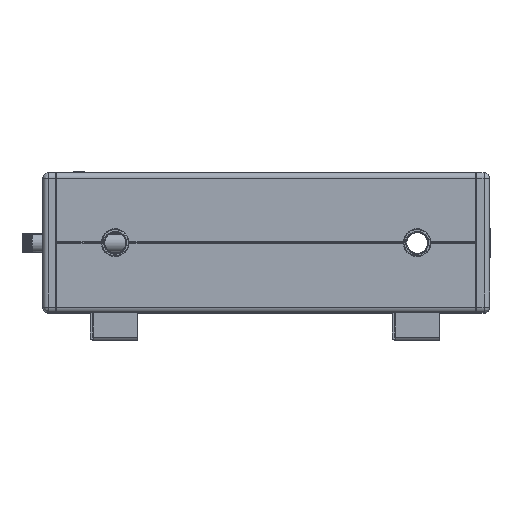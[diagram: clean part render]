
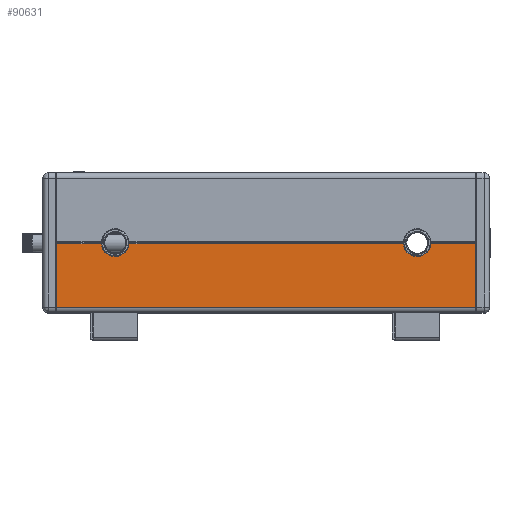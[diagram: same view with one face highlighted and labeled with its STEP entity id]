
A CAD part, top view. The second image highlights one B-rep face of the part: STEP entity #90631.
In plain terms, the highlighted planar face has unit normal (0, 0, 1) as drawn and (1, 0, 0) by its records, which use the part's own axes.
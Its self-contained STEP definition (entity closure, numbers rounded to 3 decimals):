
#300 = VERTEX_POINT ( 'NONE', #94101 ) ;
#4177 = ORIENTED_EDGE ( 'NONE', *, *, #7140, .F. ) ;
#4508 = VECTOR ( 'NONE', #41534, 1000. ) ;
#4536 = LINE ( 'NONE', #19874, #10816 ) ;
#4783 = CARTESIAN_POINT ( 'NONE',  ( 277.5, -247.08, -2. ) ) ;
#7140 = EDGE_CURVE ( 'NONE', #89873, #300, #86217, .T. ) ;
#9315 = DIRECTION ( 'NONE',  ( 0., 0., 1. ) ) ;
#10475 = DIRECTION ( 'NONE',  ( 0., 1., 0. ) ) ;
#10816 = VECTOR ( 'NONE', #33843, 1000. ) ;
#11093 = LINE ( 'NONE', #60399, #4508 ) ;
#11217 = DIRECTION ( 'NONE',  ( -1., 0., 0. ) ) ;
#13667 = DIRECTION ( 'NONE',  ( 0., 0., -1. ) ) ;
#13681 = VERTEX_POINT ( 'NONE', #4783 ) ;
#13902 = CARTESIAN_POINT ( 'NONE',  ( 277.5, 377.5, -116. ) ) ;
#13947 = EDGE_CURVE ( 'NONE', #15852, #97921, #57239, .T. ) ;
#14182 = DIRECTION ( 'NONE',  ( 1., 0., 0. ) ) ;
#15378 = ORIENTED_EDGE ( 'NONE', *, *, #102071, .F. ) ;
#15536 = DIRECTION ( 'NONE',  ( 0., 1., 0. ) ) ;
#15852 = VERTEX_POINT ( 'NONE', #42834 ) ;
#17986 = CARTESIAN_POINT ( 'NONE',  ( 277.5, -377.5, 15. ) ) ;
#18115 = VERTEX_POINT ( 'NONE', #13902 ) ;
#18960 = ORIENTED_EDGE ( 'NONE', *, *, #84149, .F. ) ;
#19164 = CARTESIAN_POINT ( 'NONE',  ( 277.5, 377.5, -2. ) ) ;
#19874 = CARTESIAN_POINT ( 'NONE',  ( 277.5, -377.5, -116. ) ) ;
#20317 = ORIENTED_EDGE ( 'NONE', *, *, #75705, .T. ) ;
#20341 = AXIS2_PLACEMENT_3D ( 'NONE', #48897, #11217, #27144 ) ;
#24461 = DIRECTION ( 'NONE',  ( 1., 0., 0. ) ) ;
#26412 = VERTEX_POINT ( 'NONE', #94369 ) ;
#26732 = ORIENTED_EDGE ( 'NONE', *, *, #51073, .T. ) ;
#27144 = DIRECTION ( 'NONE',  ( 0., 0., 1. ) ) ;
#30783 = EDGE_CURVE ( 'NONE', #18115, #59112, #4536, .T. ) ;
#30882 = VECTOR ( 'NONE', #10475, 1000. ) ;
#32318 = CARTESIAN_POINT ( 'NONE',  ( 277.5, 272., -25. ) ) ;
#33843 = DIRECTION ( 'NONE',  ( 0., -1., 0. ) ) ;
#37395 = CARTESIAN_POINT ( 'NONE',  ( 277.5, -272., 0. ) ) ;
#38983 = CARTESIAN_POINT ( 'NONE',  ( 277.5, -377.5, -116. ) ) ;
#41534 = DIRECTION ( 'NONE',  ( 0., 1., 0. ) ) ;
#42277 = CARTESIAN_POINT ( 'NONE',  ( 277.5, -272., 0. ) ) ;
#42671 = DIRECTION ( 'NONE',  ( 0., 0., -1. ) ) ;
#42678 = VECTOR ( 'NONE', #9315, 1000. ) ;
#42834 = CARTESIAN_POINT ( 'NONE',  ( 277.5, 247.08, -2. ) ) ;
#43158 = DIRECTION ( 'NONE',  ( 1., 0., 0. ) ) ;
#43379 = EDGE_CURVE ( 'NONE', #98594, #100213, #11093, .T. ) ;
#44221 = EDGE_CURVE ( 'NONE', #13681, #15852, #97157, .T. ) ;
#45663 = AXIS2_PLACEMENT_3D ( 'NONE', #37395, #14182, #13667 ) ;
#48897 = CARTESIAN_POINT ( 'NONE',  ( 277.5, -377.5, 15. ) ) ;
#49250 = DIRECTION ( 'NONE',  ( 0., 0., -1. ) ) ;
#50967 = CARTESIAN_POINT ( 'NONE',  ( 277.5, -377.5, -2. ) ) ;
#51073 = EDGE_CURVE ( 'NONE', #89873, #59112, #96949, .T. ) ;
#51762 = VECTOR ( 'NONE', #15536, 1000. ) ;
#53826 = EDGE_LOOP ( 'NONE', ( #62465, #65804, #90987, #55245, #15378, #18960, #4177, #26732, #76698, #20317 ) ) ;
#54768 = CARTESIAN_POINT ( 'NONE',  ( 277.5, -377.5, -2. ) ) ;
#55245 = ORIENTED_EDGE ( 'NONE', *, *, #44221, .F. ) ;
#57239 = CIRCLE ( 'NONE', #90177, 25. ) ;
#58134 = FACE_OUTER_BOUND ( 'NONE', #53826, .T. ) ;
#58728 = DIRECTION ( 'NONE',  ( 0., 0., -1. ) ) ;
#59112 = VERTEX_POINT ( 'NONE', #38983 ) ;
#59592 = AXIS2_PLACEMENT_3D ( 'NONE', #88057, #43158, #42671 ) ;
#60399 = CARTESIAN_POINT ( 'NONE',  ( 277.5, -377.5, -2. ) ) ;
#62465 = ORIENTED_EDGE ( 'NONE', *, *, #43379, .F. ) ;
#65168 = CARTESIAN_POINT ( 'NONE',  ( 277.5, -377.5, -2. ) ) ;
#65804 = ORIENTED_EDGE ( 'NONE', *, *, #99510, .F. ) ;
#66490 = DIRECTION ( 'NONE',  ( 0., 0., -1. ) ) ;
#70657 = LINE ( 'NONE', #87132, #42678 ) ;
#73152 = AXIS2_PLACEMENT_3D ( 'NONE', #42277, #89186, #66490 ) ;
#74863 = CARTESIAN_POINT ( 'NONE',  ( 277.5, 296.92, -2. ) ) ;
#75705 = EDGE_CURVE ( 'NONE', #18115, #100213, #70657, .T. ) ;
#76698 = ORIENTED_EDGE ( 'NONE', *, *, #30783, .F. ) ;
#81184 = CARTESIAN_POINT ( 'NONE',  ( 277.5, 272., 0. ) ) ;
#84149 = EDGE_CURVE ( 'NONE', #300, #26412, #96819, .T. ) ;
#86217 = LINE ( 'NONE', #54768, #51762 ) ;
#87132 = CARTESIAN_POINT ( 'NONE',  ( 277.5, 377.5, 15. ) ) ;
#88057 = CARTESIAN_POINT ( 'NONE',  ( 277.5, 272., 0. ) ) ;
#89186 = DIRECTION ( 'NONE',  ( 1., 0., 0. ) ) ;
#89873 = VERTEX_POINT ( 'NONE', #50967 ) ;
#90177 = AXIS2_PLACEMENT_3D ( 'NONE', #81184, #24461, #49250 ) ;
#90631 = ADVANCED_FACE ( 'NONE', ( #58134 ), #95869, .F. ) ;
#90987 = ORIENTED_EDGE ( 'NONE', *, *, #13947, .F. ) ;
#94101 = CARTESIAN_POINT ( 'NONE',  ( 277.5, -296.92, -2. ) ) ;
#94369 = CARTESIAN_POINT ( 'NONE',  ( 277.5, -272., -25. ) ) ;
#95869 = PLANE ( 'NONE',  #20341 ) ;
#96819 = CIRCLE ( 'NONE', #45663, 25. ) ;
#96949 = LINE ( 'NONE', #17986, #98493 ) ;
#97157 = LINE ( 'NONE', #65168, #30882 ) ;
#97921 = VERTEX_POINT ( 'NONE', #32318 ) ;
#97922 = CIRCLE ( 'NONE', #73152, 25. ) ;
#98493 = VECTOR ( 'NONE', #58728, 1000. ) ;
#98594 = VERTEX_POINT ( 'NONE', #74863 ) ;
#99510 = EDGE_CURVE ( 'NONE', #97921, #98594, #100824, .T. ) ;
#100213 = VERTEX_POINT ( 'NONE', #19164 ) ;
#100824 = CIRCLE ( 'NONE', #59592, 25. ) ;
#102071 = EDGE_CURVE ( 'NONE', #26412, #13681, #97922, .T. ) ;
